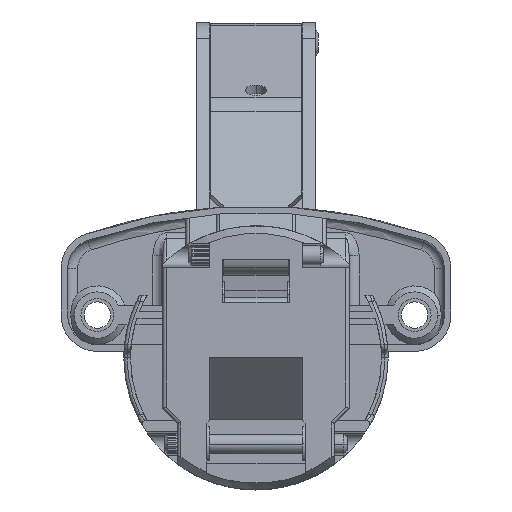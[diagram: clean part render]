
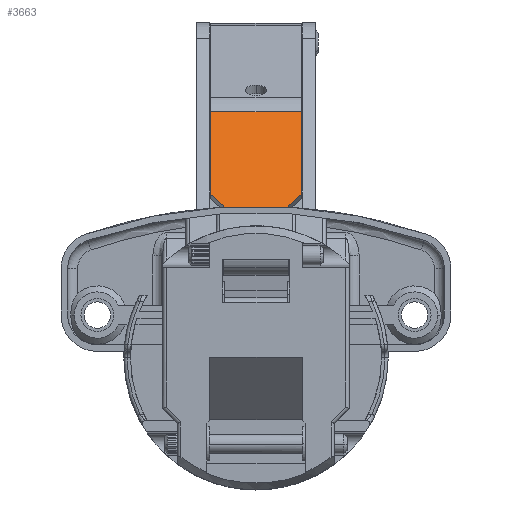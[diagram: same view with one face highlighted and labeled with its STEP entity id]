
A CAD part, top view. The second image highlights one B-rep face of the part: STEP entity #3663.
In plain terms, the highlighted planar face has unit normal (0, 0.467, 0.884) as drawn and (-0.417, 0.909, 0) by its records, which use the part's own axes.
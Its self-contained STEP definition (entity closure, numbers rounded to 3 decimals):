
#3663 = ADVANCED_FACE ( 'NONE', ( #20882 ), #22383, .F. ) ;
#11668 = VERTEX_POINT ( 'NONE', #32301 ) ;
#11671 = VERTEX_POINT ( 'NONE', #32304 ) ;
#11672 = VERTEX_POINT ( 'NONE', #32305 ) ;
#11674 = VERTEX_POINT ( 'NONE', #32307 ) ;
#11678 = VERTEX_POINT ( 'NONE', #32311 ) ;
#11679 = VERTEX_POINT ( 'NONE', #32312 ) ;
#11682 = VERTEX_POINT ( 'NONE', #32315 ) ;
#11683 = VERTEX_POINT ( 'NONE', #32316 ) ;
#12693 = EDGE_CURVE ( 'NONE', #11668, #11671, #33411, .T. ) ;
#12694 = EDGE_CURVE ( 'NONE', #11668, #11678, #33413, .T. ) ;
#12695 = EDGE_CURVE ( 'NONE', #11678, #11679, #33409, .T. ) ;
#12696 = EDGE_CURVE ( 'NONE', #11672, #11679, #33417, .T. ) ;
#12697 = EDGE_CURVE ( 'NONE', #11674, #11672, #33415, .T. ) ;
#12698 = EDGE_CURVE ( 'NONE', #11674, #11682, #33419, .T. ) ;
#12699 = EDGE_CURVE ( 'NONE', #11682, #11683, #33423, .T. ) ;
#12700 = EDGE_CURVE ( 'NONE', #11683, #11671, #33425, .T. ) ;
#14141 = ORIENTED_EDGE ( 'NONE', *, *, #12693, .F. ) ;
#14142 = ORIENTED_EDGE ( 'NONE', *, *, #12694, .T. ) ;
#14143 = ORIENTED_EDGE ( 'NONE', *, *, #12695, .T. ) ;
#14144 = ORIENTED_EDGE ( 'NONE', *, *, #12696, .F. ) ;
#14145 = ORIENTED_EDGE ( 'NONE', *, *, #12697, .F. ) ;
#14146 = ORIENTED_EDGE ( 'NONE', *, *, #12698, .T. ) ;
#14147 = ORIENTED_EDGE ( 'NONE', *, *, #12699, .T. ) ;
#14148 = ORIENTED_EDGE ( 'NONE', *, *, #12700, .T. ) ;
#16120 = EDGE_LOOP ( 'NONE', ( #14141, #14142, #14143, #14144, #14145, #14146, #14147, #14148 ) ) ;
#20020 = AXIS2_PLACEMENT_3D ( 'NONE', #22376, #22385, #22386 ) ;
#20882 = FACE_OUTER_BOUND ( 'NONE', #16120, .T. ) ;
#22376 = CARTESIAN_POINT ( 'NONE',  ( 8.4, -3.8, 13.7 ) ) ;
#22383 = PLANE ( 'NONE',  #20020 ) ;
#22385 = DIRECTION ( 'NONE',  ( 0.417, -0.909, 0. ) ) ;
#22386 = DIRECTION ( 'NONE',  ( 0.909, 0.417, 0. ) ) ;
#32301 = CARTESIAN_POINT ( 'NONE',  ( 28.617, 5.478, 13.7 ) ) ;
#32304 = CARTESIAN_POINT ( 'NONE',  ( 15.807, -0.401, 13.7 ) ) ;
#32305 = CARTESIAN_POINT ( 'NONE',  ( 13.989, -1.235, 2. ) ) ;
#32307 = CARTESIAN_POINT ( 'NONE',  ( 9.382, -3.349, 2. ) ) ;
#32311 = CARTESIAN_POINT ( 'NONE',  ( 28.617, 5.478, 0. ) ) ;
#32312 = CARTESIAN_POINT ( 'NONE',  ( 15.807, -0.401, 0. ) ) ;
#32315 = CARTESIAN_POINT ( 'NONE',  ( 9.382, -3.349, 11.7 ) ) ;
#32316 = CARTESIAN_POINT ( 'NONE',  ( 13.989, -1.235, 11.7 ) ) ;
#33053 = CARTESIAN_POINT ( 'NONE',  ( 8.4, -3.8, 0. ) ) ;
#33065 = CARTESIAN_POINT ( 'NONE',  ( 13.989, -1.235, 2. ) ) ;
#33068 = CARTESIAN_POINT ( 'NONE',  ( 8.4, -3.8, 13.7 ) ) ;
#33069 = DIRECTION ( 'NONE',  ( -0.909, -0.417, 0. ) ) ;
#33070 = CARTESIAN_POINT ( 'NONE',  ( 28.617, 5.478, 13.7 ) ) ;
#33071 = CARTESIAN_POINT ( 'NONE',  ( 9.382, -3.349, 11.7 ) ) ;
#33072 = DIRECTION ( 'NONE',  ( 0., 0., -1. ) ) ;
#33073 = DIRECTION ( 'NONE',  ( -0.909, -0.417, 0. ) ) ;
#33074 = CARTESIAN_POINT ( 'NONE',  ( 15.807, -0.401, 0. ) ) ;
#33076 = DIRECTION ( 'NONE',  ( 0.643, 0.295, -0.707 ) ) ;
#33077 = DIRECTION ( 'NONE',  ( 0.909, 0.417, 0. ) ) ;
#33079 = DIRECTION ( 'NONE',  ( 0., 0., 1. ) ) ;
#33080 = CARTESIAN_POINT ( 'NONE',  ( 13.989, -1.235, 11.7 ) ) ;
#33081 = DIRECTION ( 'NONE',  ( 0.909, 0.417, 0. ) ) ;
#33082 = CARTESIAN_POINT ( 'NONE',  ( 15.807, -0.401, 13.7 ) ) ;
#33083 = DIRECTION ( 'NONE',  ( 0.643, 0.295, 0.707 ) ) ;
#33409 = LINE ( 'NONE', #33053, #33418 ) ;
#33411 = LINE ( 'NONE', #33068, #33414 ) ;
#33413 = LINE ( 'NONE', #33070, #33416 ) ;
#33414 = VECTOR ( 'NONE', #33069, 1000. ) ;
#33415 = LINE ( 'NONE', #33065, #33422 ) ;
#33416 = VECTOR ( 'NONE', #33072, 1000. ) ;
#33417 = LINE ( 'NONE', #33074, #33420 ) ;
#33418 = VECTOR ( 'NONE', #33073, 1000. ) ;
#33419 = LINE ( 'NONE', #33071, #33424 ) ;
#33420 = VECTOR ( 'NONE', #33076, 1000. ) ;
#33422 = VECTOR ( 'NONE', #33077, 1000. ) ;
#33423 = LINE ( 'NONE', #33080, #33426 ) ;
#33424 = VECTOR ( 'NONE', #33079, 1000. ) ;
#33425 = LINE ( 'NONE', #33082, #33428 ) ;
#33426 = VECTOR ( 'NONE', #33081, 1000. ) ;
#33428 = VECTOR ( 'NONE', #33083, 1000. ) ;
